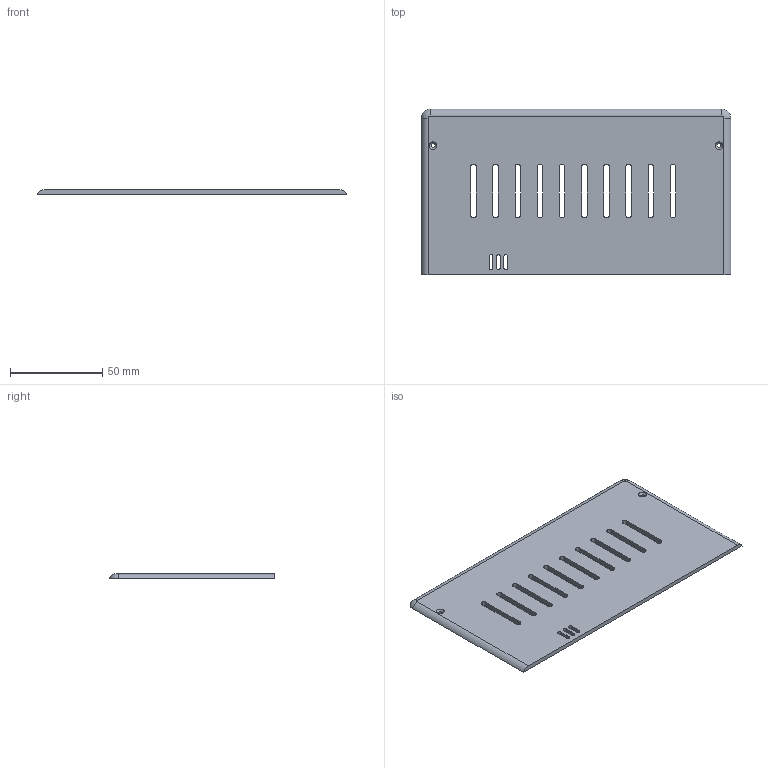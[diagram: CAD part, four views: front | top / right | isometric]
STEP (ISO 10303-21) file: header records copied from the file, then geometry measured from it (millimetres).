
FILE_DESCRIPTION(('Open CASCADE Model'),'2;1');
FILE_NAME('Open CASCADE Shape Model','2026-11-07T21:52:16',('Author'),( 'Open CASCADE'),'Open CASCADE STEP processor 7.9','Open CASCADE 7.9' ,'Unknown');
FILE_SCHEMA(('AUTOMOTIVE_DESIGN { 1 0 10303 214 1 1 1 1 }'));
Length unit declared in the file: millimetre
Products named in the file (1): Open CASCADE STEP translator 7.9 65
Bounding box: 167.42 x 89.51 x 2.5 mm (x, y, z)
Volume: 34291.2 mm3; surface area: 30611.6 mm2
Topology: 1 solids, 1 shells, 116 faces, 340 edges, 226 vertices
Faces by surface type: cylinder 57, plane 55, revolution 2, cone 2
Full cylindrical faces by diameter (mm): 2.3 x2
Entity records: 8842 total; most frequent: CARTESIAN_POINT 2302, DIRECTION 1135, ORIENTED_EDGE 680, PCURVE 680, DEFINITIONAL_REPRESENTATION 680, LINE 558, VECTOR 558, EDGE_CURVE 340
